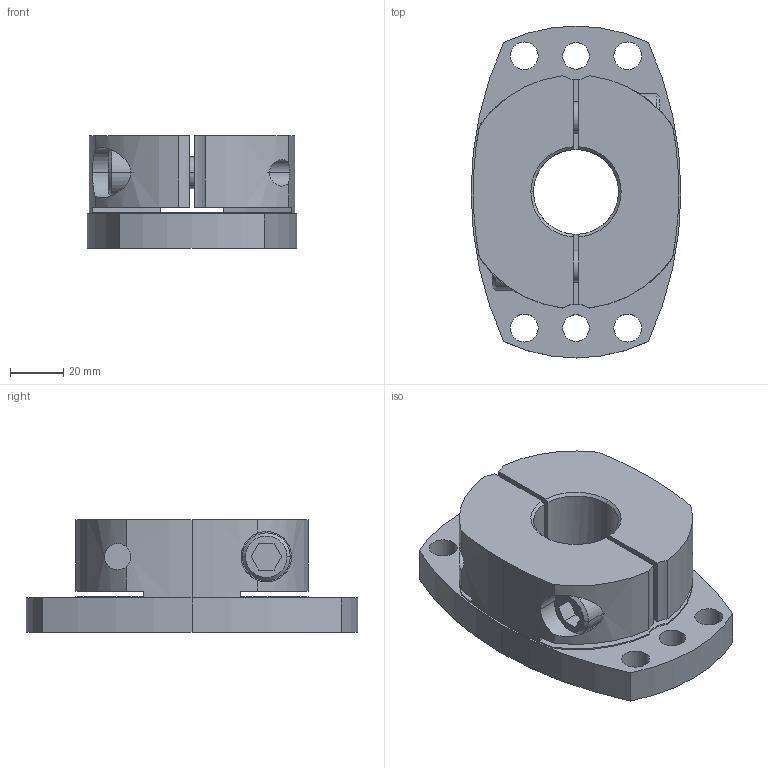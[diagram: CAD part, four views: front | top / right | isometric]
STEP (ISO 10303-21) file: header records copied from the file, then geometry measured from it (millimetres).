
FILE_DESCRIPTION((''),'2;1');
FILE_NAME('SHDB-125B-32.stp','2026-01-28T08:48:31',(''),(''),'AutoCAD STEP 2000i','AutoCAD 2000i',', , ');
FILE_SCHEMA(('CONFIG_CONTROL_DESIGN'));
Length unit declared in the file: millimetre
Products named in the file (2): SHDB-125B-25; 忣兜1
Assembly tree (1 placements, depth 2):
  SHDB-125B-25
    忣兜1
Bounding box: 79 x 125 x 42.5 mm (x, y, z)
Volume: 222706.1 mm3; surface area: 46758.8 mm2
Topology: 1 solids, 1 shells, 102 faces, 280 edges, 184 vertices
Faces by surface type: cylinder 58, plane 34, cone 10
Entity records: 3699 total; most frequent: CARTESIAN_POINT 872, DIRECTION 602, ORIENTED_EDGE 560, EDGE_CURVE 280, AXIS2_PLACEMENT_3D 238, VERTEX_POINT 184, CIRCLE 134, VECTOR 126
